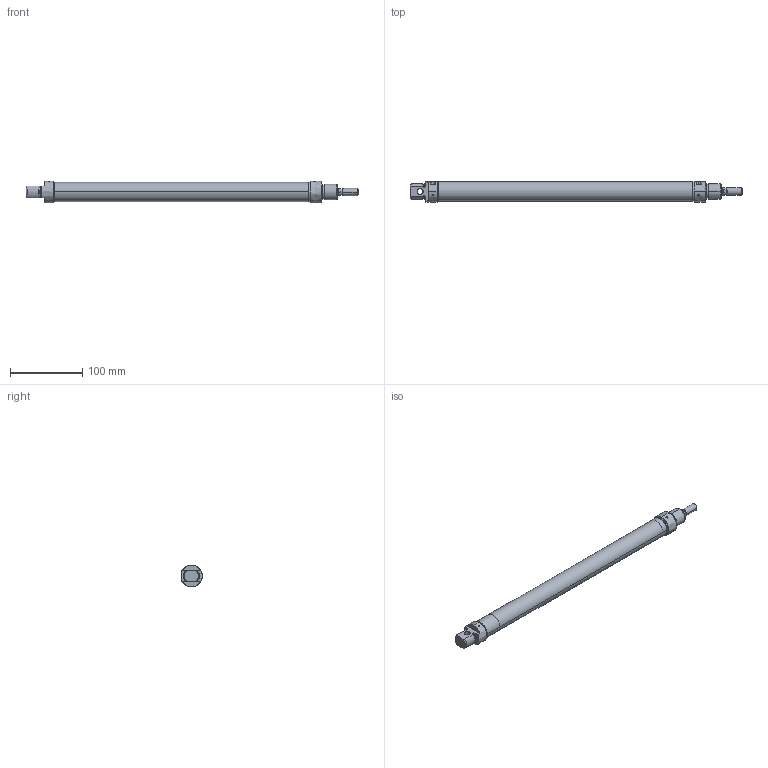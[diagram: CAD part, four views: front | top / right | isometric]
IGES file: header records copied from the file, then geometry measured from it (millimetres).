
Start section: SolidWorks IGES file using analytic representation for surfaces
Global section: file name: K:\Disegni Esecutivi\Cilindri\2_DISEGNI_cilindri_in_produzione\2_Minicilindri ISO 6432\1Minisolidworks\6_minicilidro iso 6432 _25 solidworks\CPLXMINI25\MH025\MH025_PIENO\MH0250320A.igs; native system: SolidWorks 2011; preprocessor: SolidWorks 2011; author: cad01; date: 110506.142642; units: millimetre
Bounding box: 460.5 x 28.5 x 30 mm (x, y, z)
Surface area: 76003.6 mm2 (no closed solid volume)
Topology: 0 solids, 0 shells, 253 faces, 3754 edges, 3748 vertices
Faces by surface type: revolution 159, bspline 94
